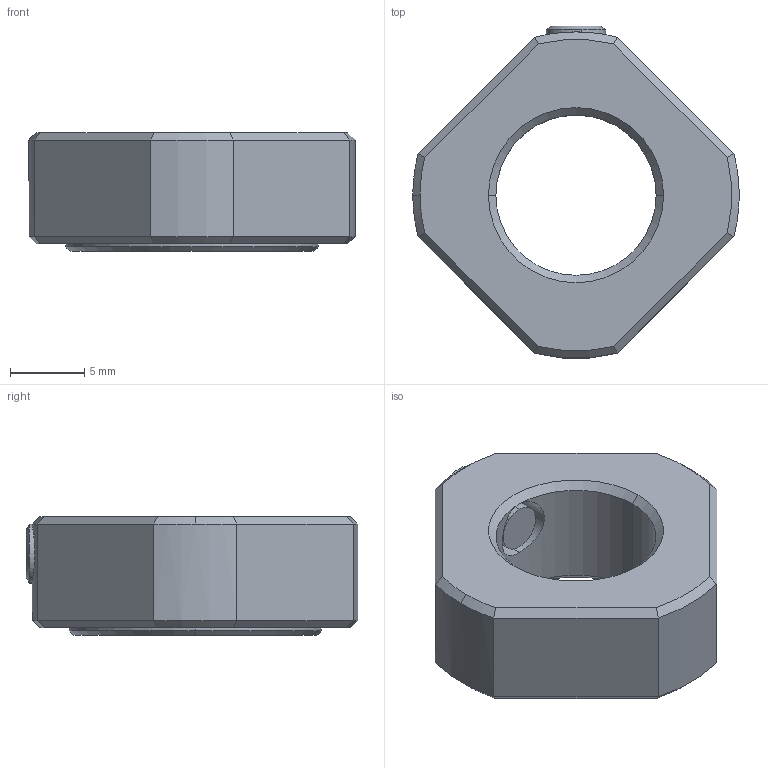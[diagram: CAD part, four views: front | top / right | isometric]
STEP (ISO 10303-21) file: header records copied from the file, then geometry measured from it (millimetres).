
FILE_DESCRIPTION (( 'STEP AP203' ), '1' );
FILE_NAME ('RN12.STEP', '2009-05-27T01:01:18', ( '冠犁泅' ), ( '俺惯何' ), 'SwSTEP 2.0', 'SolidWorks 2007', '' );
FILE_SCHEMA (( 'CONFIG_CONTROL_DESIGN' ));
Length unit declared in the file: millimetre
Products named in the file (4): SET PIECE_白3.1x1_晦獄 撲薑; RN12; RN12_NUT_晦獄 撲薑; Socket Set Screw Flat Point_AM_B18.3.6M - M4 x 0.7 x 5 Hex Socket Flat Pt. SS --N_B18.3.6M - M4 x 0.7 x 5 Hex Socket Flat Pt. SS --N
Assembly tree (3 placements, depth 2):
  RN12
    Socket Set Screw Flat Point_AM_B18.3.6M - M4 x 0.7 x 5 Hex Socket Flat Pt. SS --N_B18.3.6M - M4 x 0.7 x 5 Hex Socket Flat Pt. SS --N
    SET PIECE_白3.1x1_晦獄 撲薑
    RN12_NUT_晦獄 撲薑
Bounding box: 22 x 22.36 x 8 mm (x, y, z)
Volume: 1854.3 mm3; surface area: 1385.4 mm2
Topology: 3 solids, 3 shells, 61 faces, 138 edges, 83 vertices
Faces by surface type: plane 26, cone 20, cylinder 15
Entity records: 2195 total; most frequent: CARTESIAN_POINT 444, DIRECTION 297, ORIENTED_EDGE 268, EDGE_CURVE 134, AXIS2_PLACEMENT_3D 116, VERTEX_POINT 79, VECTOR 65, LINE 65
